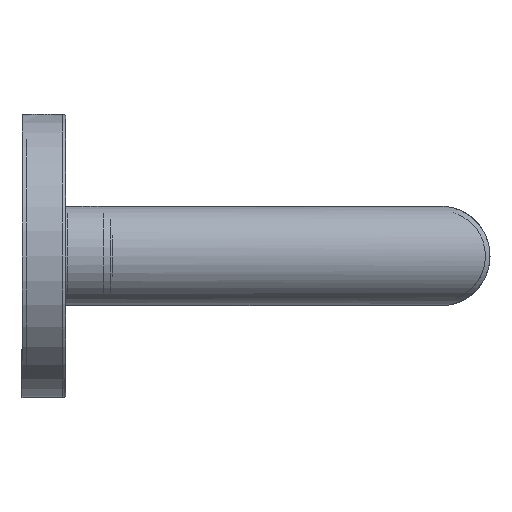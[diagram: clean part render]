
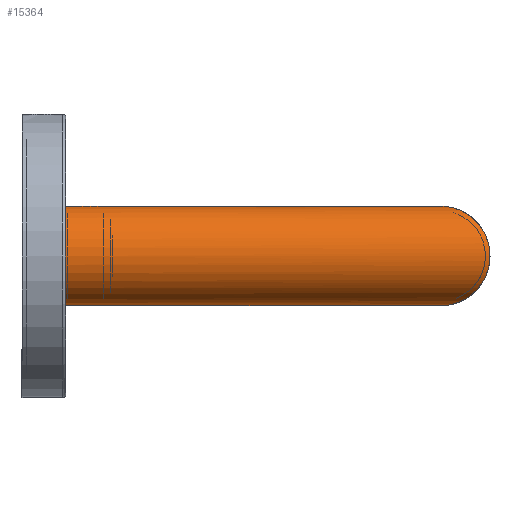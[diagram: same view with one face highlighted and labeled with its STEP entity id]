
A CAD part, left-side view. The second image highlights one B-rep face of the part: STEP entity #15364.
In plain terms, the highlighted cylindrical face has radius 16 mm (diameter 32 mm), a full revolution.
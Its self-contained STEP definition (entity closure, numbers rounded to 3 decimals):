
#250=ELLIPSE('',#16436,22.627,16.);
#2790=B_SPLINE_CURVE_WITH_KNOTS('',3,(#24934,#24935,#24936,#24937,#24938,
#24939,#24940,#24941,#24942,#24943,#24944),.UNSPECIFIED.,.T.,.F.,(1,1,1,
1,1,1,1,1,1,1,1,1,1,1,1),(-0.005,-0.003,-0.002,
0.,0.002,0.003,0.005,0.007,
0.008,0.01,0.012,0.013,
0.015,0.017,0.019),.UNSPECIFIED.);
#4124=ORIENTED_EDGE('',*,*,#8064,.F.);
#4125=ORIENTED_EDGE('',*,*,#8065,.T.);
#4126=ORIENTED_EDGE('',*,*,#8066,.F.);
#8064=EDGE_CURVE('',#10110,#10110,#2790,.T.);
#8065=EDGE_CURVE('',#10111,#10111,#250,.F.);
#8066=EDGE_CURVE('',#10112,#10112,#11348,.T.);
#10110=VERTEX_POINT('',#24945);
#10111=VERTEX_POINT('',#24947);
#10112=VERTEX_POINT('',#24949);
#11348=CIRCLE('',#16437,16.);
#12154=EDGE_LOOP('',(#4124));
#12155=EDGE_LOOP('',(#4125));
#12156=EDGE_LOOP('',(#4126));
#13260=FACE_BOUND('',#12154,.T.);
#13261=FACE_BOUND('',#12155,.T.);
#13262=FACE_BOUND('',#12156,.T.);
#14174=CYLINDRICAL_SURFACE('',#16435,16.);
#15364=ADVANCED_FACE('',(#13260,#13261,#13262),#14174,.T.);
#16435=AXIS2_PLACEMENT_3D('',#24933,#18485,#18486);
#16436=AXIS2_PLACEMENT_3D('',#24946,#18487,#18488);
#16437=AXIS2_PLACEMENT_3D('',#24948,#18489,#18490);
#18485=DIRECTION('',(0.,1.,0.));
#18486=DIRECTION('',(0.,0.,1.));
#18487=DIRECTION('',(-0.707,-0.707,0.));
#18488=DIRECTION('',(-0.707,0.707,0.));
#18489=DIRECTION('',(0.,1.,0.));
#18490=DIRECTION('',(1.,0.,0.));
#24933=CARTESIAN_POINT('',(0.,-68.,0.));
#24934=CARTESIAN_POINT('',(-1.683,57.313,-15.928));
#24935=CARTESIAN_POINT('',(-2.383,59.,-15.818));
#24936=CARTESIAN_POINT('',(-1.684,60.685,-15.928));
#24937=CARTESIAN_POINT('',(-0.002,61.382,-16.036));
#24938=CARTESIAN_POINT('',(1.685,60.686,-15.928));
#24939=CARTESIAN_POINT('',(2.382,59.001,-15.818));
#24940=CARTESIAN_POINT('',(1.687,57.317,-15.928));
#24941=CARTESIAN_POINT('',(0.002,56.617,-16.036));
#24942=CARTESIAN_POINT('',(-1.683,57.313,-15.928));
#24943=CARTESIAN_POINT('',(-2.383,59.,-15.818));
#24944=CARTESIAN_POINT('',(-1.684,60.685,-15.928));
#24945=CARTESIAN_POINT('',(-2.15,59.,-15.855));
#24946=CARTESIAN_POINT('',(0.,-52.,0.));
#24947=CARTESIAN_POINT('',(-16.,-36.,0.));
#24948=CARTESIAN_POINT('',(0.,68.,0.));
#24949=CARTESIAN_POINT('',(16.,68.,0.));
